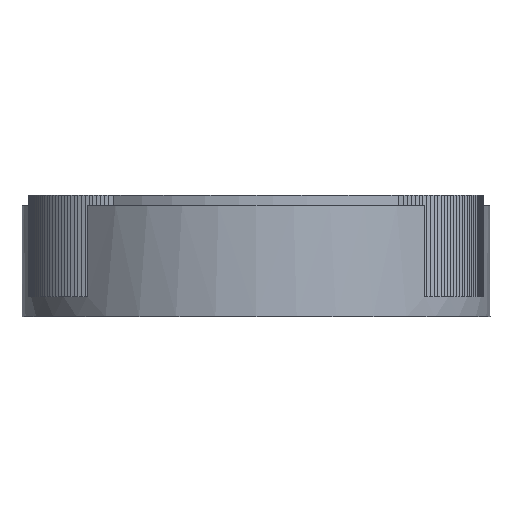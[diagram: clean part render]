
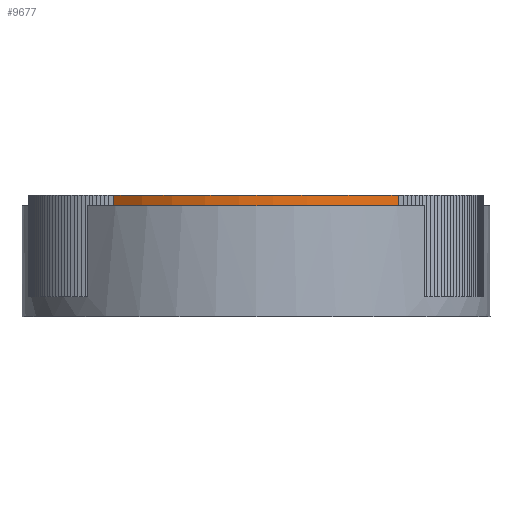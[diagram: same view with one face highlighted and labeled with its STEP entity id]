
A CAD part, left-side view. The second image highlights one B-rep face of the part: STEP entity #9677.
In plain terms, the highlighted cylindrical face has radius 26.8 mm (diameter 53.6 mm), a partial arc.
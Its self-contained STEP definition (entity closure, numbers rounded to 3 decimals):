
#261 = PLANE('',#262);
#262 = AXIS2_PLACEMENT_3D('',#263,#264,#265);
#263 = CARTESIAN_POINT('',(0.,0.,19.8)
  );
#264 = DIRECTION('',(0.,0.,1.));
#265 = DIRECTION('',(1.,0.,-0.));
#1643 = PLANE('',#1644);
#1644 = AXIS2_PLACEMENT_3D('',#1645,#1646,#1647);
#1645 = CARTESIAN_POINT('',(0.,0.,21.1
    ));
#1646 = DIRECTION('',(-0.,-0.,-1.));
#1647 = DIRECTION('',(-1.,0.,0.));
#3983 = VERTEX_POINT('',#3984);
#3984 = CARTESIAN_POINT('',(-20.3,-17.497,21.1));
#3998 = PLANE('',#3999);
#3999 = AXIS2_PLACEMENT_3D('',#4000,#4001,#4002);
#4000 = CARTESIAN_POINT('',(-20.3,-18.187,8.6));
#4001 = DIRECTION('',(-1.,0.,0.));
#4002 = DIRECTION('',(0.,1.,0.));
#4010 = EDGE_CURVE('',#4011,#3983,#4013,.T.);
#4011 = VERTEX_POINT('',#4012);
#4012 = CARTESIAN_POINT('',(-20.3,17.497,21.1));
#4013 = SURFACE_CURVE('',#4014,(#4019,#4030),.PCURVE_S1.);
#4014 = CIRCLE('',#4015,26.8);
#4015 = AXIS2_PLACEMENT_3D('',#4016,#4017,#4018);
#4016 = CARTESIAN_POINT('',(0.,0.,21.1));
#4017 = DIRECTION('',(0.,0.,1.));
#4018 = DIRECTION('',(1.,0.,0.));
#4019 = PCURVE('',#1643,#4020);
#4020 = DEFINITIONAL_REPRESENTATION('',(#4021),#4029);
#4021 = ( BOUNDED_CURVE() B_SPLINE_CURVE(2,(#4022,#4023,#4024,#4025,
#4026,#4027,#4028),.UNSPECIFIED.,.T.,.F.) B_SPLINE_CURVE_WITH_KNOTS((1,2
    ,2,2,2,1),(-2.094,0.,2.094,4.189,
6.283,8.378),.UNSPECIFIED.) CURVE() 
GEOMETRIC_REPRESENTATION_ITEM() RATIONAL_B_SPLINE_CURVE((1.,0.5,1.,0.5,
1.,0.5,1.)) REPRESENTATION_ITEM('') );
#4022 = CARTESIAN_POINT('',(-26.8,0.));
#4023 = CARTESIAN_POINT('',(-26.8,46.419));
#4024 = CARTESIAN_POINT('',(13.4,23.209));
#4025 = CARTESIAN_POINT('',(53.6,0.));
#4026 = CARTESIAN_POINT('',(13.4,-23.209));
#4027 = CARTESIAN_POINT('',(-26.8,-46.419));
#4028 = CARTESIAN_POINT('',(-26.8,0.));
#4029 = ( GEOMETRIC_REPRESENTATION_CONTEXT(2) 
PARAMETRIC_REPRESENTATION_CONTEXT() REPRESENTATION_CONTEXT('2D SPACE',''
  ) );
#4030 = PCURVE('',#4031,#4036);
#4031 = CYLINDRICAL_SURFACE('',#4032,26.8);
#4032 = AXIS2_PLACEMENT_3D('',#4033,#4034,#4035);
#4033 = CARTESIAN_POINT('',(0.,0.,19.8));
#4034 = DIRECTION('',(-0.,-0.,-1.));
#4035 = DIRECTION('',(1.,0.,0.));
#4036 = DEFINITIONAL_REPRESENTATION('',(#4037),#4041);
#4037 = LINE('',#4038,#4039);
#4038 = CARTESIAN_POINT('',(-0.,-1.3));
#4039 = VECTOR('',#4040,1.);
#4040 = DIRECTION('',(-1.,0.));
#4041 = ( GEOMETRIC_REPRESENTATION_CONTEXT(2) 
PARAMETRIC_REPRESENTATION_CONTEXT() REPRESENTATION_CONTEXT('2D SPACE',''
  ) );
#4059 = PLANE('',#4060);
#4060 = AXIS2_PLACEMENT_3D('',#4061,#4062,#4063);
#4061 = CARTESIAN_POINT('',(-20.3,-18.187,8.6));
#4062 = DIRECTION('',(-1.,0.,0.));
#4063 = DIRECTION('',(0.,1.,0.));
#9636 = EDGE_CURVE('',#4011,#9637,#9639,.T.);
#9637 = VERTEX_POINT('',#9638);
#9638 = CARTESIAN_POINT('',(-20.3,17.497,19.8));
#9639 = SURFACE_CURVE('',#9640,(#9644,#9650),.PCURVE_S1.);
#9640 = LINE('',#9641,#9642);
#9641 = CARTESIAN_POINT('',(-20.3,17.497,19.8));
#9642 = VECTOR('',#9643,1.);
#9643 = DIRECTION('',(-0.,-0.,-1.));
#9644 = PCURVE('',#4059,#9645);
#9645 = DEFINITIONAL_REPRESENTATION('',(#9646),#9649);
#9646 = B_SPLINE_CURVE_WITH_KNOTS('',1,(#9647,#9648),.UNSPECIFIED.,.F.,
  .F.,(2,2),(-1.3,0.),.PIECEWISE_BEZIER_KNOTS.);
#9647 = CARTESIAN_POINT('',(35.684,-12.5));
#9648 = CARTESIAN_POINT('',(35.684,-11.2));
#9649 = ( GEOMETRIC_REPRESENTATION_CONTEXT(2) 
PARAMETRIC_REPRESENTATION_CONTEXT() REPRESENTATION_CONTEXT('2D SPACE',''
  ) );
#9650 = PCURVE('',#4031,#9651);
#9651 = DEFINITIONAL_REPRESENTATION('',(#9652),#9655);
#9652 = B_SPLINE_CURVE_WITH_KNOTS('',1,(#9653,#9654),.UNSPECIFIED.,.F.,
  .F.,(2,2),(-1.3,0.),.PIECEWISE_BEZIER_KNOTS.);
#9653 = CARTESIAN_POINT('',(-2.43,-1.3));
#9654 = CARTESIAN_POINT('',(-2.43,0.));
#9655 = ( GEOMETRIC_REPRESENTATION_CONTEXT(2) 
PARAMETRIC_REPRESENTATION_CONTEXT() REPRESENTATION_CONTEXT('2D SPACE',''
  ) );
#9677 = ADVANCED_FACE('',(#9678),#4031,.T.);
#9678 = FACE_BOUND('',#9679,.F.);
#9679 = EDGE_LOOP('',(#9680,#9704,#9705,#9706));
#9680 = ORIENTED_EDGE('',*,*,#9681,.F.);
#9681 = EDGE_CURVE('',#9637,#9682,#9684,.T.);
#9682 = VERTEX_POINT('',#9683);
#9683 = CARTESIAN_POINT('',(-20.3,-17.497,19.8));
#9684 = SURFACE_CURVE('',#9685,(#9690,#9697),.PCURVE_S1.);
#9685 = CIRCLE('',#9686,26.8);
#9686 = AXIS2_PLACEMENT_3D('',#9687,#9688,#9689);
#9687 = CARTESIAN_POINT('',(0.,0.,19.8));
#9688 = DIRECTION('',(0.,0.,1.));
#9689 = DIRECTION('',(1.,0.,0.));
#9690 = PCURVE('',#4031,#9691);
#9691 = DEFINITIONAL_REPRESENTATION('',(#9692),#9696);
#9692 = LINE('',#9693,#9694);
#9693 = CARTESIAN_POINT('',(-0.,0.));
#9694 = VECTOR('',#9695,1.);
#9695 = DIRECTION('',(-1.,0.));
#9696 = ( GEOMETRIC_REPRESENTATION_CONTEXT(2) 
PARAMETRIC_REPRESENTATION_CONTEXT() REPRESENTATION_CONTEXT('2D SPACE',''
  ) );
#9697 = PCURVE('',#261,#9698);
#9698 = DEFINITIONAL_REPRESENTATION('',(#9699),#9703);
#9699 = CIRCLE('',#9700,26.8);
#9700 = AXIS2_PLACEMENT_2D('',#9701,#9702);
#9701 = CARTESIAN_POINT('',(0.,0.));
#9702 = DIRECTION('',(1.,0.));
#9703 = ( GEOMETRIC_REPRESENTATION_CONTEXT(2) 
PARAMETRIC_REPRESENTATION_CONTEXT() REPRESENTATION_CONTEXT('2D SPACE',''
  ) );
#9704 = ORIENTED_EDGE('',*,*,#9636,.F.);
#9705 = ORIENTED_EDGE('',*,*,#4010,.T.);
#9706 = ORIENTED_EDGE('',*,*,#9707,.T.);
#9707 = EDGE_CURVE('',#3983,#9682,#9708,.T.);
#9708 = SURFACE_CURVE('',#9709,(#9713,#9719),.PCURVE_S1.);
#9709 = LINE('',#9710,#9711);
#9710 = CARTESIAN_POINT('',(-20.3,-17.497,19.8));
#9711 = VECTOR('',#9712,1.);
#9712 = DIRECTION('',(-0.,-0.,-1.));
#9713 = PCURVE('',#4031,#9714);
#9714 = DEFINITIONAL_REPRESENTATION('',(#9715),#9718);
#9715 = B_SPLINE_CURVE_WITH_KNOTS('',1,(#9716,#9717),.UNSPECIFIED.,.F.,
  .F.,(2,2),(-1.3,0.),.PIECEWISE_BEZIER_KNOTS.);
#9716 = CARTESIAN_POINT('',(-3.853,-1.3));
#9717 = CARTESIAN_POINT('',(-3.853,0.));
#9718 = ( GEOMETRIC_REPRESENTATION_CONTEXT(2) 
PARAMETRIC_REPRESENTATION_CONTEXT() REPRESENTATION_CONTEXT('2D SPACE',''
  ) );
#9719 = PCURVE('',#3998,#9720);
#9720 = DEFINITIONAL_REPRESENTATION('',(#9721),#9724);
#9721 = B_SPLINE_CURVE_WITH_KNOTS('',1,(#9722,#9723),.UNSPECIFIED.,.F.,
  .F.,(2,2),(-1.3,0.),.PIECEWISE_BEZIER_KNOTS.);
#9722 = CARTESIAN_POINT('',(0.689,-12.5));
#9723 = CARTESIAN_POINT('',(0.689,-11.2));
#9724 = ( GEOMETRIC_REPRESENTATION_CONTEXT(2) 
PARAMETRIC_REPRESENTATION_CONTEXT() REPRESENTATION_CONTEXT('2D SPACE',''
  ) );
